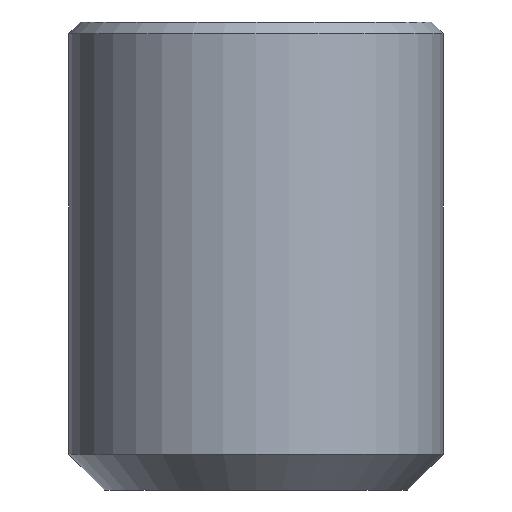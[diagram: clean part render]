
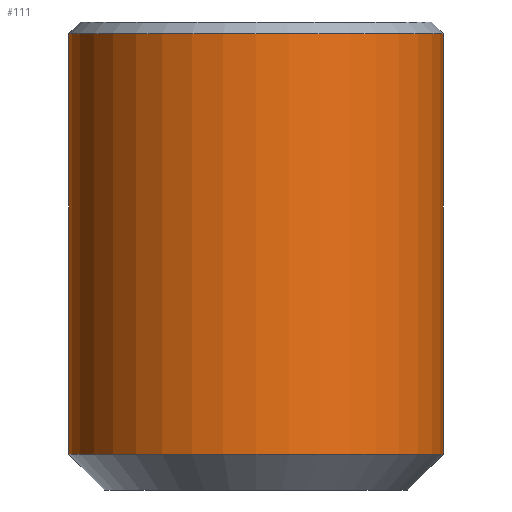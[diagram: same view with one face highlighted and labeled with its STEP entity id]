
A CAD part, front view. The second image highlights one B-rep face of the part: STEP entity #111.
In plain terms, the highlighted cylindrical face has radius 4 mm (diameter 8 mm), a partial arc.
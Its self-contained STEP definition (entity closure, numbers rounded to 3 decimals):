
#5 = DIRECTION ( 'NONE',  ( 0., 0., -1. ) ) ;
#10 = CARTESIAN_POINT ( 'NONE',  ( 4., 0., 10. ) ) ;
#11 = ORIENTED_EDGE ( 'NONE', *, *, #24, .T. ) ;
#13 = VERTEX_POINT ( 'NONE', #51 ) ;
#16 = AXIS2_PLACEMENT_3D ( 'NONE', #325, #275, #166 ) ;
#20 = DIRECTION ( 'NONE',  ( 0., 0., -1. ) ) ;
#21 = AXIS2_PLACEMENT_3D ( 'NONE', #118, #253, #255 ) ;
#24 = EDGE_CURVE ( 'NONE', #13, #344, #163, .T. ) ;
#39 = ORIENTED_EDGE ( 'NONE', *, *, #40, .T. ) ;
#40 = EDGE_CURVE ( 'NONE', #344, #110, #209, .T. ) ;
#43 = VERTEX_POINT ( 'NONE', #290 ) ;
#51 = CARTESIAN_POINT ( 'NONE',  ( 4., 0., 9.75 ) ) ;
#54 = CARTESIAN_POINT ( 'NONE',  ( -4., 0., 10. ) ) ;
#59 = CYLINDRICAL_SURFACE ( 'NONE', #21, 4. ) ;
#63 = EDGE_CURVE ( 'NONE', #110, #43, #346, .T. ) ;
#66 = ORIENTED_EDGE ( 'NONE', *, *, #353, .F. ) ;
#110 = VERTEX_POINT ( 'NONE', #164 ) ;
#111 = ADVANCED_FACE ( 'NONE', ( #352 ), #59, .T. ) ;
#118 = CARTESIAN_POINT ( 'NONE',  ( 0., 0., 10. ) ) ;
#155 = VECTOR ( 'NONE', #20, 1000. ) ;
#163 = CIRCLE ( 'NONE', #179, 4. ) ;
#164 = CARTESIAN_POINT ( 'NONE',  ( -4., 0., 0.76 ) ) ;
#166 = DIRECTION ( 'NONE',  ( 1., 0., 0. ) ) ;
#179 = AXIS2_PLACEMENT_3D ( 'NONE', #299, #273, #247 ) ;
#188 = ORIENTED_EDGE ( 'NONE', *, *, #63, .T. ) ;
#209 = LINE ( 'NONE', #54, #155 ) ;
#230 = LINE ( 'NONE', #10, #278 ) ;
#244 = CARTESIAN_POINT ( 'NONE',  ( -4., 0., 9.75 ) ) ;
#247 = DIRECTION ( 'NONE',  ( 1., 0., 0. ) ) ;
#253 = DIRECTION ( 'NONE',  ( 0., 0., -1. ) ) ;
#255 = DIRECTION ( 'NONE',  ( -1., 0., 0. ) ) ;
#262 = EDGE_LOOP ( 'NONE', ( #66, #11, #39, #188 ) ) ;
#273 = DIRECTION ( 'NONE',  ( 0., 0., -1. ) ) ;
#275 = DIRECTION ( 'NONE',  ( 0., 0., 1. ) ) ;
#278 = VECTOR ( 'NONE', #5, 1000. ) ;
#290 = CARTESIAN_POINT ( 'NONE',  ( 4., 0., 0.76 ) ) ;
#299 = CARTESIAN_POINT ( 'NONE',  ( 0., 0., 9.75 ) ) ;
#325 = CARTESIAN_POINT ( 'NONE',  ( 0., 0., 0.76 ) ) ;
#344 = VERTEX_POINT ( 'NONE', #244 ) ;
#346 = CIRCLE ( 'NONE', #16, 4. ) ;
#352 = FACE_OUTER_BOUND ( 'NONE', #262, .T. ) ;
#353 = EDGE_CURVE ( 'NONE', #13, #43, #230, .T. ) ;
